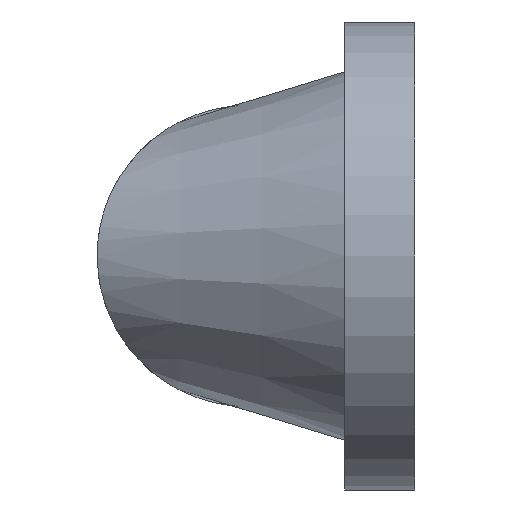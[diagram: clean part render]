
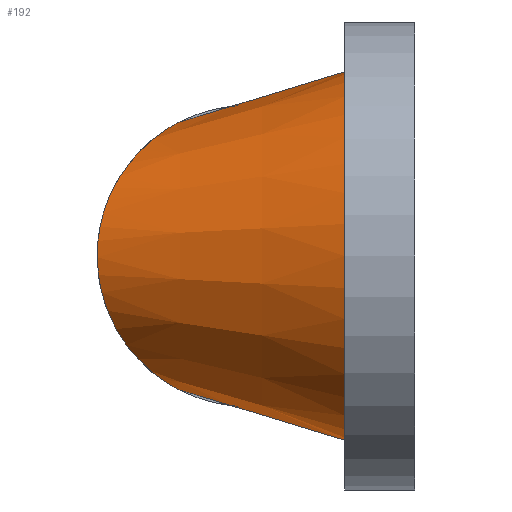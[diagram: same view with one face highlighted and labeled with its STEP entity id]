
A CAD part, left-side view. The second image highlights one B-rep face of the part: STEP entity #192.
In plain terms, the highlighted conical face has half-angle 16.991 degrees and reference radius 6.5 mm.
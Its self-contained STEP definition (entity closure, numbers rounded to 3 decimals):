
#2 = ORIENTED_EDGE ( 'NONE', *, *, #63, .T. ) ;
#3 = CARTESIAN_POINT ( 'NONE',  ( 0., 13.169, 7.976 ) ) ;
#4 = EDGE_CURVE ( 'NONE', #572, #56, #239, .T. ) ;
#11 = CARTESIAN_POINT ( 'NONE',  ( -0.993, 13.42, 7.84 ) ) ;
#13 = CARTESIAN_POINT ( 'NONE',  ( -5.209, 16.812, 4.475 ) ) ;
#15 = EDGE_CURVE ( 'NONE', #67, #469, #373, .T. ) ;
#16 = CARTESIAN_POINT ( 'NONE',  ( -6.308, 17.822, -1.799 ) ) ;
#17 = CARTESIAN_POINT ( 'NONE',  ( -3.283, 15.1, -6.63 ) ) ;
#21 = CARTESIAN_POINT ( 'NONE',  ( -0.261, 13.184, -7.968 ) ) ;
#31 = CARTESIAN_POINT ( 'NONE',  ( 0., 39.273, 0. ) ) ;
#39 = B_SPLINE_CURVE_WITH_KNOTS ( 'NONE', 3,
 ( #577, #313, #21, #538, #216, #493, #168, #449, #119, #406, #65, #354, #17, #309, #573, #259, #535, #214, #164, #447, #116, #403, #62, #351, #16, #305, #570, #257, #534, #211, #489, #163, #446, #113, #401, #61, #347, #13, #304, #568, #256, #533, #210, #486, #160, #445, #110, #399, #59, #346, #11, #303, #566, #254, #531, #483 ),
 .UNSPECIFIED., .F., .F.,
 ( 4, 2, 2, 2, 2, 2, 2, 2, 2, 2, 2, 2, 2, 2, 2, 2, 2, 2, 2, 2, 2, 2, 2, 2, 2, 2, 2, 4 ),
 ( 0., 0., 0.001, 0.002, 0.002, 0.003, 0.005, 0.006, 0.008, 0.009, 0.009, 0.01, 0.011, 0.012, 0.013, 0.014, 0.015, 0.016, 0.017, 0.018, 0.019, 0.02, 0.022, 0.023, 0.023, 0.024, 0.024, 0.025 ),
 .UNSPECIFIED. ) ;
#46 = EDGE_CURVE ( 'NONE', #99, #469, #39, .T. ) ;
#56 = VERTEX_POINT ( 'NONE', #158 ) ;
#59 = CARTESIAN_POINT ( 'NONE',  ( -1.634, 13.805, 7.612 ) ) ;
#61 = CARTESIAN_POINT ( 'NONE',  ( -5.778, 17.333, 3.434 ) ) ;
#62 = CARTESIAN_POINT ( 'NONE',  ( -6.111, 17.64, -2.531 ) ) ;
#63 = EDGE_CURVE ( 'NONE', #56, #468, #349, .T. ) ;
#65 = CARTESIAN_POINT ( 'NONE',  ( -2.402, 14.374, -7.222 ) ) ;
#67 = VERTEX_POINT ( 'NONE', #444 ) ;
#78 = AXIS2_PLACEMENT_3D ( 'NONE', #318, #415, #80 ) ;
#80 = DIRECTION ( 'NONE',  ( 0., 0., -1. ) ) ;
#86 = DIRECTION ( 'NONE',  ( 0., 0.956, -0.292 ) ) ;
#89 = EDGE_LOOP ( 'NONE', ( #456, #209, #215, #2, #595, #511 ) ) ;
#99 = VERTEX_POINT ( 'NONE', #587 ) ;
#110 = CARTESIAN_POINT ( 'NONE',  ( -2.22, 14.231, 7.326 ) ) ;
#113 = CARTESIAN_POINT ( 'NONE',  ( -6.12, 17.649, 2.503 ) ) ;
#116 = CARTESIAN_POINT ( 'NONE',  ( -5.858, 17.407, -3.223 ) ) ;
#119 = CARTESIAN_POINT ( 'NONE',  ( -1.833, 13.945, -7.522 ) ) ;
#135 = EDGE_CURVE ( 'NONE', #468, #67, #281, .T. ) ;
#152 = VECTOR ( 'NONE', #86, 1000. ) ;
#158 = CARTESIAN_POINT ( 'NONE',  ( 0., 3.2, -11.022 ) ) ;
#160 = CARTESIAN_POINT ( 'NONE',  ( -2.949, 14.814, 6.88 ) ) ;
#163 = CARTESIAN_POINT ( 'NONE',  ( -6.314, 17.827, 1.772 ) ) ;
#164 = CARTESIAN_POINT ( 'NONE',  ( -5.55, 17.124, -3.88 ) ) ;
#166 = EDGE_CURVE ( 'NONE', #99, #572, #298, .T. ) ;
#168 = CARTESIAN_POINT ( 'NONE',  ( -1.212, 13.542, -7.771 ) ) ;
#171 = AXIS2_PLACEMENT_3D ( 'NONE', #297, #565, #251 ) ;
#176 = VECTOR ( 'NONE', #508, 1000. ) ;
#192 = ADVANCED_FACE ( 'NONE', ( #285 ), #397, .T. ) ;
#209 = ORIENTED_EDGE ( 'NONE', *, *, #166, .T. ) ;
#210 = CARTESIAN_POINT ( 'NONE',  ( -3.945, 15.675, 6.05 ) ) ;
#211 = CARTESIAN_POINT ( 'NONE',  ( -6.442, 17.946, 1.018 ) ) ;
#214 = CARTESIAN_POINT ( 'NONE',  ( -5.437, 17.02, -4.09 ) ) ;
#215 = ORIENTED_EDGE ( 'NONE', *, *, #4, .T. ) ;
#216 = CARTESIAN_POINT ( 'NONE',  ( -0.637, 13.279, -7.918 ) ) ;
#222 = CARTESIAN_POINT ( 'NONE',  ( 0., 39.273, 0. ) ) ;
#239 = LINE ( 'NONE', #364, #488 ) ;
#251 = DIRECTION ( 'NONE',  ( 0., 0., 1. ) ) ;
#254 = CARTESIAN_POINT ( 'NONE',  ( -0.263, 13.185, 7.968 ) ) ;
#256 = CARTESIAN_POINT ( 'NONE',  ( -4.679, 16.332, 5.224 ) ) ;
#257 = CARTESIAN_POINT ( 'NONE',  ( -6.501, 18.001, 0.24 ) ) ;
#259 = CARTESIAN_POINT ( 'NONE',  ( -4.815, 16.454, -5.062 ) ) ;
#268 = CARTESIAN_POINT ( 'NONE',  ( 0., 39.273, 0. ) ) ;
#274 = CARTESIAN_POINT ( 'NONE',  ( 0., 3.2, 11.022 ) ) ;
#281 = LINE ( 'NONE', #222, #152 ) ;
#285 = FACE_OUTER_BOUND ( 'NONE', #89, .T. ) ;
#295 = CARTESIAN_POINT ( 'NONE',  ( 0., 10.001, -8.944 ) ) ;
#297 = CARTESIAN_POINT ( 'NONE',  ( 0., 3.2, 0. ) ) ;
#298 = LINE ( 'NONE', #31, #176 ) ;
#303 = CARTESIAN_POINT ( 'NONE',  ( -0.637, 13.279, 7.918 ) ) ;
#304 = CARTESIAN_POINT ( 'NONE',  ( -5.081, 16.696, 4.671 ) ) ;
#305 = CARTESIAN_POINT ( 'NONE',  ( -6.45, 17.954, -1.044 ) ) ;
#309 = CARTESIAN_POINT ( 'NONE',  ( -3.936, 15.667, -6.059 ) ) ;
#313 = CARTESIAN_POINT ( 'NONE',  ( -0.132, 13.169, -7.976 ) ) ;
#316 = DIRECTION ( 'NONE',  ( 0., -0.956, -0.292 ) ) ;
#318 = CARTESIAN_POINT ( 'NONE',  ( 0., 18., 0. ) ) ;
#346 = CARTESIAN_POINT ( 'NONE',  ( -1.213, 13.543, 7.771 ) ) ;
#347 = CARTESIAN_POINT ( 'NONE',  ( -5.568, 17.141, 3.866 ) ) ;
#349 = CIRCLE ( 'NONE', #171, 11.022 ) ;
#351 = CARTESIAN_POINT ( 'NONE',  ( -6.249, 17.767, -2.049 ) ) ;
#354 = CARTESIAN_POINT ( 'NONE',  ( -2.942, 14.809, -6.884 ) ) ;
#364 = CARTESIAN_POINT ( 'NONE',  ( 0., 39.273, 0. ) ) ;
#373 = LINE ( 'NONE', #268, #473 ) ;
#397 = CONICAL_SURFACE ( 'NONE', #78, 6.5, 0.297 ) ;
#399 = CARTESIAN_POINT ( 'NONE',  ( -1.834, 13.946, 7.521 ) ) ;
#401 = CARTESIAN_POINT ( 'NONE',  ( -6.041, 17.576, 2.742 ) ) ;
#403 = CARTESIAN_POINT ( 'NONE',  ( -6.033, 17.568, -2.765 ) ) ;
#406 = CARTESIAN_POINT ( 'NONE',  ( -2.217, 14.229, -7.327 ) ) ;
#415 = DIRECTION ( 'NONE',  ( 0., -1., 0. ) ) ;
#444 = CARTESIAN_POINT ( 'NONE',  ( 0., 10.001, 8.944 ) ) ;
#445 = CARTESIAN_POINT ( 'NONE',  ( -2.406, 14.377, 7.22 ) ) ;
#446 = CARTESIAN_POINT ( 'NONE',  ( -6.256, 17.774, 2.018 ) ) ;
#447 = CARTESIAN_POINT ( 'NONE',  ( -5.761, 17.318, -3.445 ) ) ;
#449 = CARTESIAN_POINT ( 'NONE',  ( -1.633, 13.804, -7.612 ) ) ;
#455 = DIRECTION ( 'NONE',  ( 0., 0.956, -0.292 ) ) ;
#456 = ORIENTED_EDGE ( 'NONE', *, *, #46, .F. ) ;
#468 = VERTEX_POINT ( 'NONE', #274 ) ;
#469 = VERTEX_POINT ( 'NONE', #3 ) ;
#473 = VECTOR ( 'NONE', #455, 1000. ) ;
#483 = CARTESIAN_POINT ( 'NONE',  ( 0., 13.169, 7.976 ) ) ;
#486 = CARTESIAN_POINT ( 'NONE',  ( -3.294, 15.109, 6.622 ) ) ;
#488 = VECTOR ( 'NONE', #316, 1000. ) ;
#489 = CARTESIAN_POINT ( 'NONE',  ( -6.406, 17.913, 1.272 ) ) ;
#493 = CARTESIAN_POINT ( 'NONE',  ( -0.993, 13.42, -7.84 ) ) ;
#508 = DIRECTION ( 'NONE',  ( 0., -0.956, -0.292 ) ) ;
#511 = ORIENTED_EDGE ( 'NONE', *, *, #15, .T. ) ;
#531 = CARTESIAN_POINT ( 'NONE',  ( -0.131, 13.169, 7.976 ) ) ;
#533 = CARTESIAN_POINT ( 'NONE',  ( -4.251, 15.947, 5.738 ) ) ;
#534 = CARTESIAN_POINT ( 'NONE',  ( -6.489, 17.99, 0.501 ) ) ;
#535 = CARTESIAN_POINT ( 'NONE',  ( -5.078, 16.693, -4.693 ) ) ;
#538 = CARTESIAN_POINT ( 'NONE',  ( -0.513, 13.239, -7.939 ) ) ;
#565 = DIRECTION ( 'NONE',  ( 0., 1., 0. ) ) ;
#566 = CARTESIAN_POINT ( 'NONE',  ( -0.515, 13.24, 7.939 ) ) ;
#568 = CARTESIAN_POINT ( 'NONE',  ( -4.817, 16.456, 5.045 ) ) ;
#570 = CARTESIAN_POINT ( 'NONE',  ( -6.499, 17.999, -0.534 ) ) ;
#572 = VERTEX_POINT ( 'NONE', #295 ) ;
#573 = CARTESIAN_POINT ( 'NONE',  ( -4.245, 15.942, -5.744 ) ) ;
#577 = CARTESIAN_POINT ( 'NONE',  ( 0., 13.169, -7.976 ) ) ;
#587 = CARTESIAN_POINT ( 'NONE',  ( 0., 13.169, -7.976 ) ) ;
#595 = ORIENTED_EDGE ( 'NONE', *, *, #135, .T. ) ;
